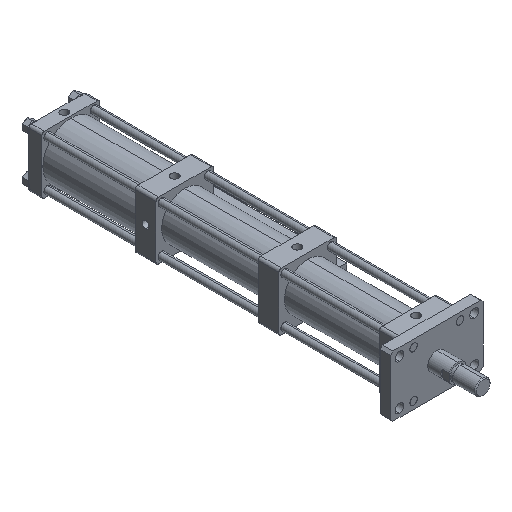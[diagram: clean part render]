
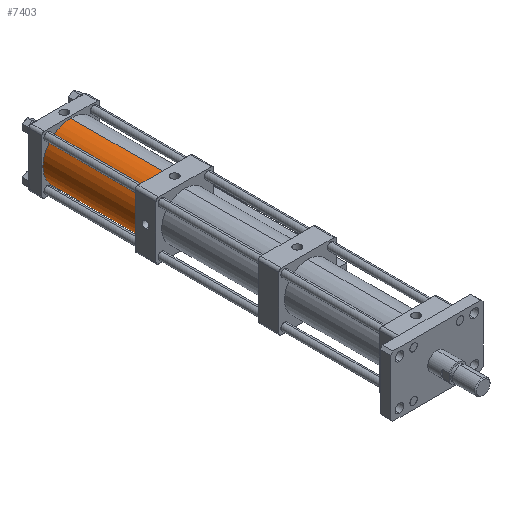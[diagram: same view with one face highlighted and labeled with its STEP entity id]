
A CAD part, isometric view. The second image highlights one B-rep face of the part: STEP entity #7403.
In plain terms, the highlighted cylindrical face has radius 54 mm (diameter 108 mm), a partial arc.
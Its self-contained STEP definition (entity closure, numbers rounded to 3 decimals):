
#230 = EDGE_CURVE ( 'NONE', #7292, #7704, #364, .T. ) ;
#364 = LINE ( 'NONE', #2437, #5048 ) ;
#666 = VERTEX_POINT ( 'NONE', #3985 ) ;
#960 = LINE ( 'NONE', #1518, #5653 ) ;
#993 = ORIENTED_EDGE ( 'NONE', *, *, #6423, .F. ) ;
#1207 = CARTESIAN_POINT ( 'NONE',  ( 0., 709.002, -1.638 ) ) ;
#1518 = CARTESIAN_POINT ( 'NONE',  ( 0., 709.002, 52.362 ) ) ;
#1592 = CARTESIAN_POINT ( 'NONE',  ( 0., 528.002, 52.362 ) ) ;
#1638 = ORIENTED_EDGE ( 'NONE', *, *, #230, .T. ) ;
#1838 = DIRECTION ( 'NONE',  ( 0., -1., 0. ) ) ;
#1882 = CARTESIAN_POINT ( 'NONE',  ( 0., 528.002, -1.638 ) ) ;
#2437 = CARTESIAN_POINT ( 'NONE',  ( 0., 709.002, -55.638 ) ) ;
#2502 = DIRECTION ( 'NONE',  ( 0., 0., 1. ) ) ;
#2724 = AXIS2_PLACEMENT_3D ( 'NONE', #7234, #3540, #7849 ) ;
#3030 = DIRECTION ( 'NONE',  ( 0., -1., 0. ) ) ;
#3540 = DIRECTION ( 'NONE',  ( 0., 1., 0. ) ) ;
#3747 = EDGE_CURVE ( 'NONE', #7292, #666, #7124, .T. ) ;
#3985 = CARTESIAN_POINT ( 'NONE',  ( 0., 709.002, 52.362 ) ) ;
#4002 = CIRCLE ( 'NONE', #7738, 54. ) ;
#4257 = DIRECTION ( 'NONE',  ( 0., 0., -1. ) ) ;
#4646 = ORIENTED_EDGE ( 'NONE', *, *, #3747, .F. ) ;
#4700 = EDGE_LOOP ( 'NONE', ( #993, #4646, #1638, #6748 ) ) ;
#5048 = VECTOR ( 'NONE', #1838, 1000. ) ;
#5383 = CYLINDRICAL_SURFACE ( 'NONE', #7909, 54. ) ;
#5653 = VECTOR ( 'NONE', #7655, 1000. ) ;
#5690 = EDGE_CURVE ( 'NONE', #7704, #7702, #4002, .T. ) ;
#5784 = FACE_OUTER_BOUND ( 'NONE', #4700, .T. ) ;
#5898 = CARTESIAN_POINT ( 'NONE',  ( 0., 528.002, -55.638 ) ) ;
#6019 = CARTESIAN_POINT ( 'NONE',  ( 0., 709.002, -55.638 ) ) ;
#6194 = DIRECTION ( 'NONE',  ( 0., 1., 0. ) ) ;
#6423 = EDGE_CURVE ( 'NONE', #666, #7702, #960, .T. ) ;
#6748 = ORIENTED_EDGE ( 'NONE', *, *, #5690, .T. ) ;
#7124 = CIRCLE ( 'NONE', #2724, 54. ) ;
#7234 = CARTESIAN_POINT ( 'NONE',  ( 0., 709.002, -1.638 ) ) ;
#7292 = VERTEX_POINT ( 'NONE', #6019 ) ;
#7403 = ADVANCED_FACE ( 'NONE', ( #5784 ), #5383, .T. ) ;
#7655 = DIRECTION ( 'NONE',  ( 0., -1., 0. ) ) ;
#7702 = VERTEX_POINT ( 'NONE', #1592 ) ;
#7704 = VERTEX_POINT ( 'NONE', #5898 ) ;
#7738 = AXIS2_PLACEMENT_3D ( 'NONE', #1882, #6194, #2502 ) ;
#7849 = DIRECTION ( 'NONE',  ( 0., 0., 1. ) ) ;
#7909 = AXIS2_PLACEMENT_3D ( 'NONE', #1207, #3030, #4257 ) ;
